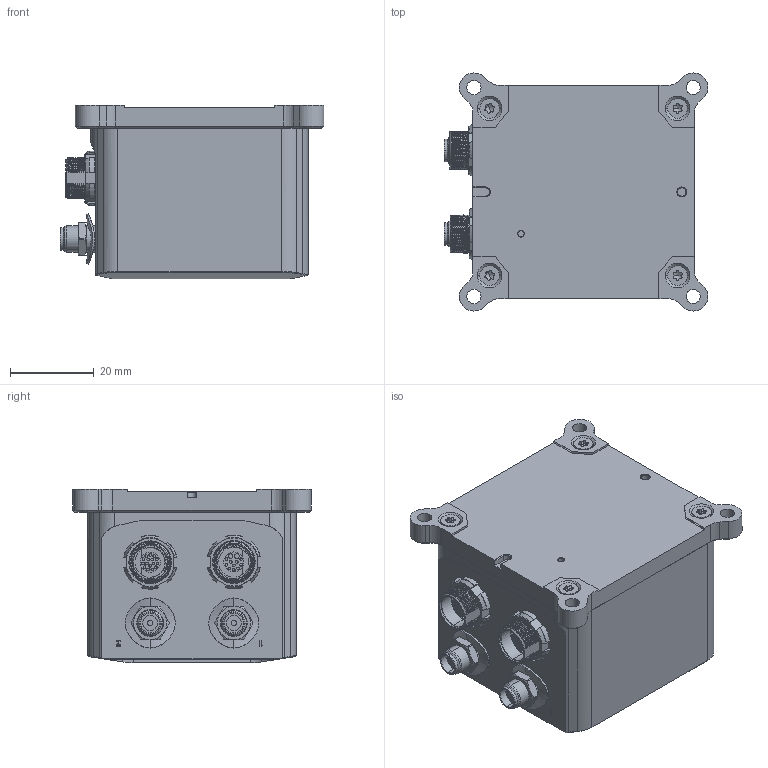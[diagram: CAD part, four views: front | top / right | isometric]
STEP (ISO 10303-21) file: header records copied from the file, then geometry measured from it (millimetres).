
FILE_DESCRIPTION (( 'STEP AP214' ), '1' );
FILE_NAME ('EKINOX-U-CSTM-OUT-V1-REV1.STEP', '2023-04-24T16:42:15', ( '' ), ( '' ), 'SwSTEP 2.0', 'SolidWorks 2022', '' );
FILE_SCHEMA (( 'AUTOMOTIVE_DESIGN' ));
Length unit declared in the file: millimetre
Products named in the file (1): EKINOX-U-CSTM-OUT-V1-REV1
Bounding box: 63.15 x 57 x 41.5 mm (x, y, z)
Surface area: 15725.4 mm2 (no closed solid volume)
Topology: 0 solids, 221 shells, 638 faces, 3419 edges, 2966 vertices
Faces by surface type: plane 219, cylinder 189, bspline 101, cone 83, torus 38, sphere 8
Entity records: 83398 total; most frequent: CARTESIAN_POINT 53111, ORIENTED_EDGE 4285, DIRECTION 3664, EDGE_CURVE 3411, VERTEX_POINT 2966, B_SPLINE_CURVE_WITH_KNOTS 1438, VECTOR 1350, LINE 1350
